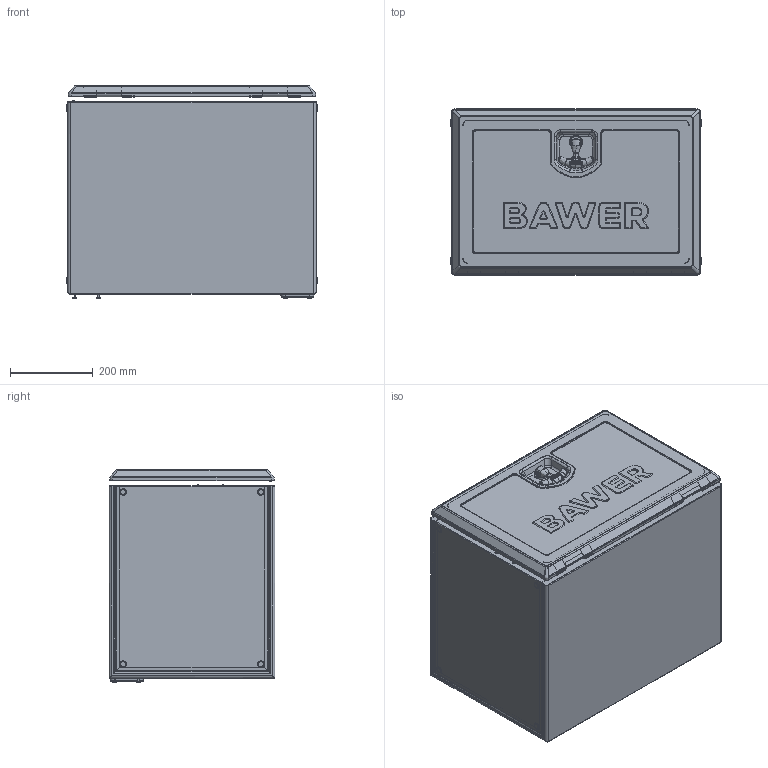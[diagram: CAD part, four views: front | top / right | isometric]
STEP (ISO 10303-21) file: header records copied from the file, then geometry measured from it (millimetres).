
FILE_DESCRIPTION (( 'STEP AP203' ), '1' );
FILE_NAME ('E220401_REV1.STEP', '2025-03-27T11:12:42', ( '' ), ( '' ), 'SwSTEP 2.0', 'SolidWorks 2023', '' );
FILE_SCHEMA (( 'CONFIG_CONTROL_DESIGN' ));
Products named in the file (1): E220401_REV1
Bounding box: 604 x 400 x 515.17 mm (x, y, z)
Surface area: 1940215.7 mm2 (no closed solid volume)
Topology: 0 solids, 82 shells, 825 faces, 2963 edges, 2159 vertices
Faces by surface type: plane 246, cylinder 219, bspline 142, cone 113, torus 105
Entity records: 64509 total; most frequent: CARTESIAN_POINT 40909, DIRECTION 4717, ORIENTED_EDGE 4473, EDGE_CURVE 2957, VERTEX_POINT 2159, AXIS2_PLACEMENT_3D 1779, VECTOR 1159, LINE 1159
